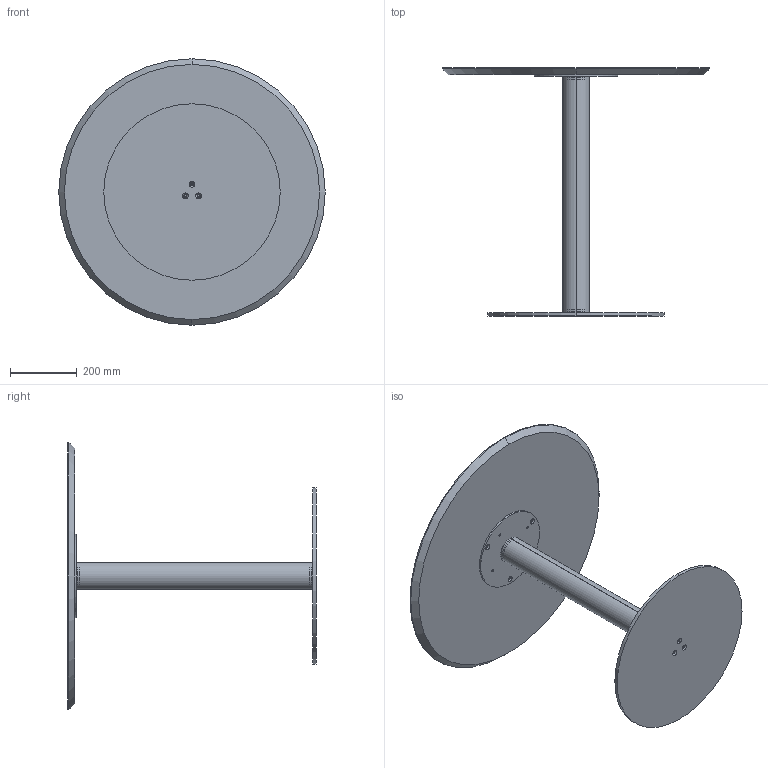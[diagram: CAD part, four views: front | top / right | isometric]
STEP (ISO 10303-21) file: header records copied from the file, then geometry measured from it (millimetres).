
FILE_DESCRIPTION (( 'STEP AP203' ), '1' );
FILE_NAME ('CB25W.STEP', '2024-08-08T08:26:46', ( '' ), ( '' ), 'SwSTEP 2.0', 'SolidWorks 2022', '' );
FILE_SCHEMA (( 'CONFIG_CONTROL_DESIGN' ));
Length unit declared in the file: millimetre
Products named in the file (5): W1XCMXX-00-Piani Rotondi legno_D.800 SP.20cm; CB25W; CBS200000PST-00-CONTROPIASTRA PER PIASTRA D.25cm GREZZO_250; CBS000000COL-00-CILINDRO BISTRO COLONNA H75; CBS000000BAS-00-BISTRO PIASTRA INFERIORE_D.530
Assembly tree (4 placements, depth 2):
  CB25W
    CBS000000BAS-00-BISTRO PIASTRA INFERIORE_D.530
    CBS200000PST-00-CONTROPIASTRA PER PIASTRA D.25cm GREZZO_250
    CBS000000COL-00-CILINDRO BISTRO COLONNA H75
    W1XCMXX-00-Piani Rotondi legno_D.800 SP.20cm
Bounding box: 800 x 745 x 800 mm (x, y, z)
Volume: 12528852.7 mm3; surface area: 1961116.7 mm2
Topology: 6 solids, 6 shells, 110 faces, 258 edges, 156 vertices
Faces by surface type: cylinder 62, cone 36, plane 12
Entity records: 3733 total; most frequent: DIRECTION 636, CARTESIAN_POINT 523, ORIENTED_EDGE 500, AXIS2_PLACEMENT_3D 269, EDGE_CURVE 250, EDGE_LOOP 156, VERTEX_POINT 156, CIRCLE 152
